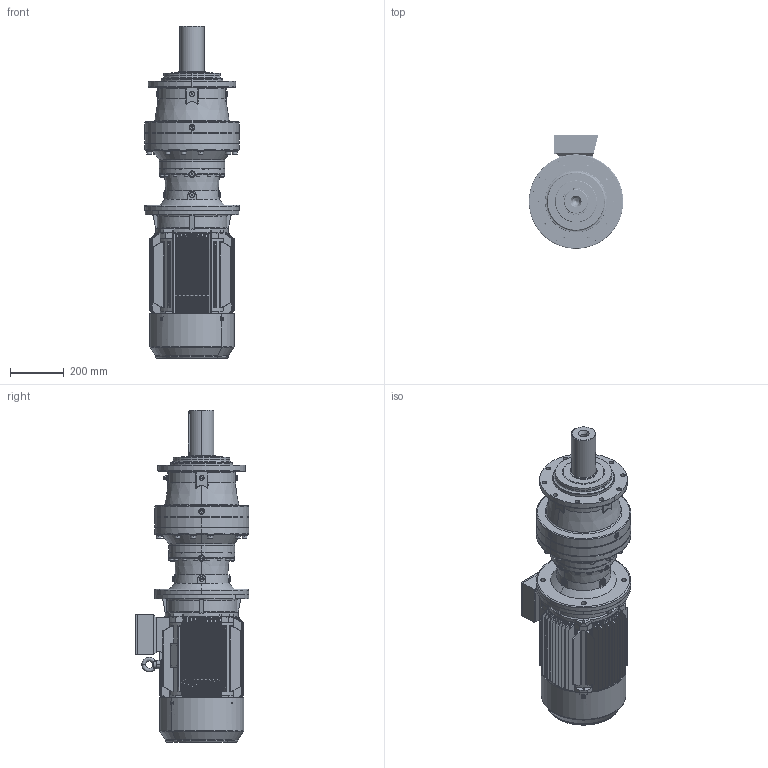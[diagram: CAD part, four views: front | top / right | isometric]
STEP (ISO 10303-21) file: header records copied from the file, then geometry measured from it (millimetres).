
FILE_DESCRIPTION (( 'STEP AP203' ), '1' );
FILE_NAME ('PVL-2302L-HS160L-4.STEP', '2019-05-24T07:57:11', ( '' ), ( '' ), 'SwSTEP 2.0', 'SolidWorks 2012', '' );
FILE_SCHEMA (( 'CONFIG_CONTROL_DESIGN' ));
Products named in the file (18): PVL-2302L-HS160L-4; M3-160L-FF-B5; Y2-160_shaft; M3-HS160L-FF-B5; +¦i-MN2-160_-++ñ; Eyebolts GB_GB_FASTENER_SCREWS_FRS M12N; Y2-160L+À+¿(B5)_-++ñ; Y2-160-2ª¥--®+_-++ñ; Y2-160-4Ý¾6Ý¾8-ª+---®+_-++ñ; +ª+§ªiY2-160ñ»ª­_-++ñ; Y2-160ñ»ª­+¿_-++ñ; Y2-160-180ñ»ª­®+_-++ñ; EK2302L_Varsayìlan; PNL_2302L_0_0_A16_B5_ML31A_FL7A_0_0_0_0_0_0_0_0_0_0_0_M1; FL7A_Varsayìlan; ML31A_Varsayìlan; 15160B5_Varsayìlan; P23_Varsayìlan
Assembly tree (17 placements, depth 5):
  PVL-2302L-HS160L-4
    PNL_2302L_0_0_A16_B5_ML31A_FL7A_0_0_0_0_0_0_0_0_0_0_0_M1
      P23_Varsayìlan
      15160B5_Varsayìlan
      ML31A_Varsayìlan
      EK2302L_Varsayìlan
      FL7A_Varsayìlan
    M3-HS160L-FF-B5
      M3-160L-FF-B5
        +ª+§ªiY2-160ñ»ª­_-++ñ
          Y2-160-180ñ»ª­®+_-++ñ
          Y2-160ñ»ª­+¿_-++ñ
        Y2-160-4Ý¾6Ý¾8-ª+---®+_-++ñ
        Y2-160L+À+¿(B5)_-++ñ
        Eyebolts GB_GB_FASTENER_SCREWS_FRS M12N
        Y2-160-2ª¥--®+_-++ñ
        +¦i-MN2-160_-++ñ
        Y2-160_shaft
Bounding box: 350 x 422 x 1232.5 mm (x, y, z)
Volume: 38898379.4 mm3; surface area: 3858152.5 mm2
Topology: 17 solids, 17 shells, 4002 faces, 10207 edges, 6284 vertices
Faces by surface type: cylinder 1402, plane 1238, cone 727, bspline 532, torus 63, sphere 40
Entity records: 174275 total; most frequent: CARTESIAN_POINT 80067, ORIENTED_EDGE 20126, DIRECTION 18447, EDGE_CURVE 10063, AXIS2_PLACEMENT_3D 7139, VERTEX_POINT 6269, EDGE_LOOP 4354, VECTOR 4169
